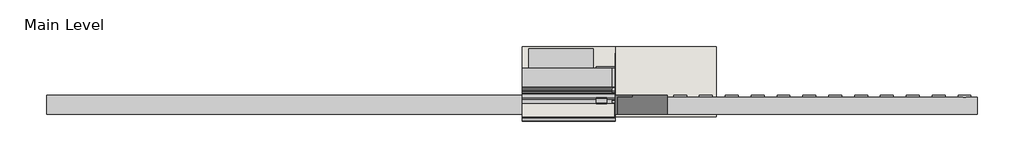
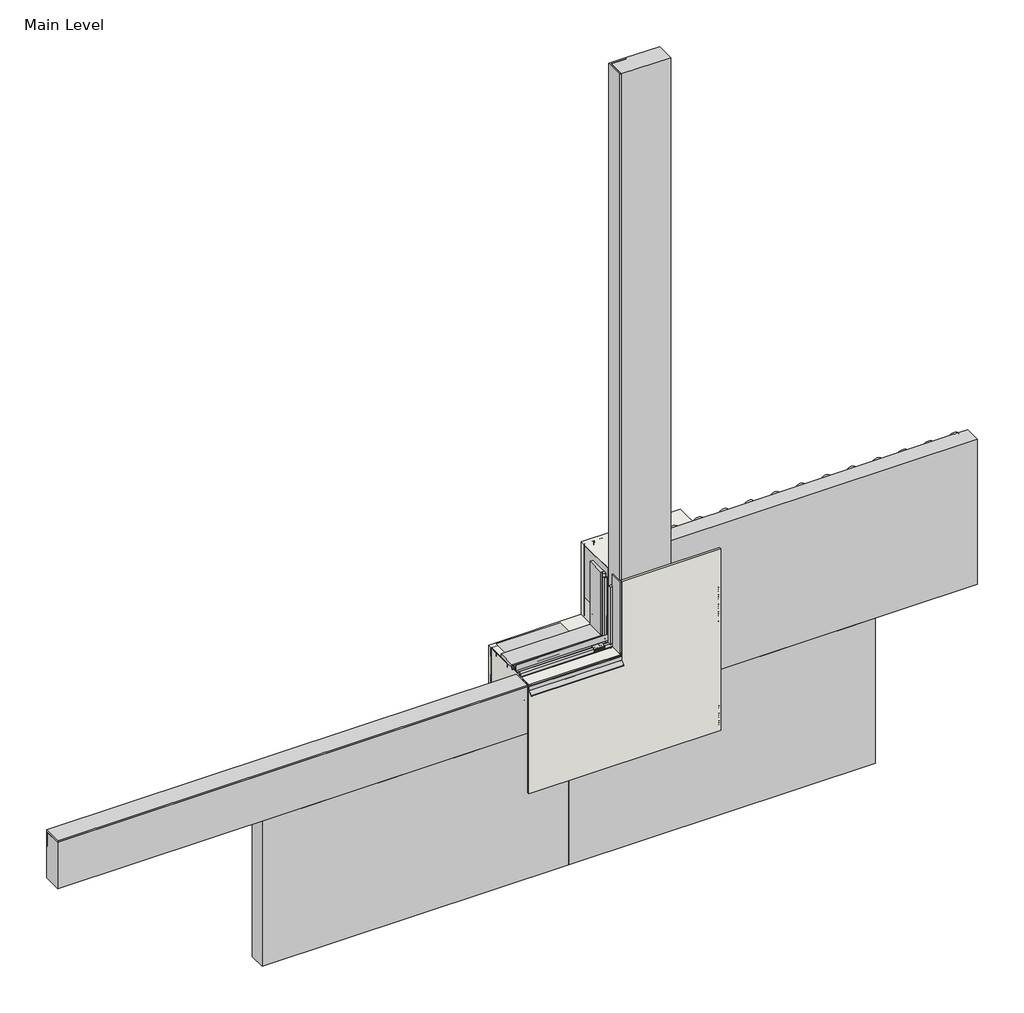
# One storey, incomplete: 28 proxies, 1 wall.
"""IFC4 building model written with IfcOpenShell, lengths in millimetres."""

from ifc_helpers import new_model, si_unit, frame, origin, place, context, project, spatial, polyline, outline, extrude, transform, mapped, element, save
from components import generic_models_31547c53, generic_models_d28646c3, generic_models_724a5e66, generic_models_aac0d774, generic_models_4f6b713c, generic_models_388356b2, generic_models_2850309d, generic_models_672f9cdd, generic_models_9b4c3a2c, generic_models_3fb7d6d8, proxy_4c3b85e5, proxy_c7e97176, proxy_46de1dcf, proxy_50213ae0, finish_coat_filler_finish_coat_filler_dfa12fb7, masonry_sill_masonry_sill_535ab80c, masonry_sill1_masonry_sill_349c8951, masonry_sill3_masonry_sill_9eb3d358, masonry_sill4_masonry_sill_f52e6068, proxy_a3fd9b0b, proxy_3a0ad636, proxy_0073da47, proxy_6f3203ff, window_header_window_header_abd4ef46, wood_blocking_5320d369

model = new_model("IFC4")

# Units and contexts
model_context = context("Model", 3, world=origin())
ifc_project = project(units=[si_unit("LENGTHUNIT", "METRE", prefix="MILLI")], contexts=[model_context])

# Site, building, storey
site = spatial("IfcSite", under=ifc_project)
building = spatial("IfcBuilding", under=site)
storey = spatial("IfcBuildingStorey", under=building, Name="Main Level", Elevation=0.0)

# Proxies
placement = place(None, origin())
generic_models_shape = generic_models_31547c53(model_context)
element("IfcBuildingElementProxy", 1, Name="Durabond Generic Model Sealant Vent : Durabond Generic Model Sealant Vent", ObjectType="Durabond Generic Model Sealant Vent : Durabond Generic Model Sealant Vent", at=placement, inside=storey, context=model_context, shape_type="MappedRepresentation", body=[
    mapped(generic_models_shape, transform((26800.7195523, 590.8476543, 464.646745), x_axis=(1.0, 0.0, 0.0), y_axis=(0.0, 0.08715574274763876, -0.9961946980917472), z_axis=(0.0, 0.9961946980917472, 0.08715574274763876))),
])
generic_models_2_shape = generic_models_d28646c3(model_context)
element("IfcBuildingElementProxy", 2, Name="CRAi Generic Model Line Based Drip Deflector : CRAi Generic Model Line Based Drip Deflector", ObjectType="CRAi Generic Model Line Based Drip Deflector : CRAi Generic Model Line Based Drip Deflector", at=placement, inside=storey, context=model_context, shape_type="MappedRepresentation", body=[
    mapped(generic_models_2_shape, transform((26855.8851773, 535.1829375, 451.8088934), x_axis=(0.0, 0.996194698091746, 0.08715574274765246), y_axis=(-1.0, 0.0, 0.0), z_axis=(0.0, -0.0871557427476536, 0.996194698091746))),
])
generic_models_3_shape = generic_models_724a5e66(model_context)
element("IfcBuildingElementProxy", 3, Name="Durabond Generic Model Insulation Adhesive Flat : Durabond Generic Model Insulation Adhesive Flat", ObjectType="Durabond Generic Model Insulation Adhesive Flat : Durabond Generic Model Insulation Adhesive Flat", at=placement, inside=storey, context=model_context, shape_type="MappedRepresentation", body=[
    mapped(generic_models_3_shape, transform((26703.4851773, 627.6316297, 381.0), x_axis=(1.0, 0.0, 0.0), y_axis=(0.0, -1.0, 0.0), z_axis=(0.0, 0.0, -1.0))),
])
element("IfcBuildingElementProxy", 4, Name="Durabond Generic Model Insulation Adhesive Flat : Durabond Generic Model Insulation Adhesive Flat", ObjectType="Durabond Generic Model Insulation Adhesive Flat : Durabond Generic Model Insulation Adhesive Flat", at=placement, inside=storey, context=model_context, shape_type="MappedRepresentation", body=[
    mapped(generic_models_3_shape, transform((26805.0851773, 627.6316297, 381.0), x_axis=(1.0, 0.0, 0.0), y_axis=(0.0, -1.0, 0.0), z_axis=(0.0, 0.0, -1.0))),
])
generic_models_4_shape = generic_models_aac0d774(model_context)
element("IfcBuildingElementProxy", 5, Name="Durabond Generic Model Insulation Adhesive Flat : Durabond Generic Model Insulation Adhesive Flat", ObjectType="Durabond Generic Model Insulation Adhesive Flat : Durabond Generic Model Insulation Adhesive Flat", at=placement, inside=storey, context=model_context, shape_type="MappedRepresentation", body=[
    mapped(generic_models_4_shape, transform((26906.6851773, 627.6316297, 685.8043344), x_axis=(1.0, 0.0, 0.0), y_axis=(0.0, -1.0, 0.0), z_axis=(0.0, 0.0, -1.0))),
])
element("IfcBuildingElementProxy", 6, Name="Durabond Generic Model Insulation Adhesive Flat : Durabond Generic Model Insulation Adhesive Flat", ObjectType="Durabond Generic Model Insulation Adhesive Flat : Durabond Generic Model Insulation Adhesive Flat", at=placement, inside=storey, context=model_context, shape_type="MappedRepresentation", body=[
    mapped(generic_models_4_shape, transform((27008.2851773, 627.6316297, 685.8), x_axis=(1.0, 0.0, 0.0), y_axis=(0.0, -1.0, 0.0), z_axis=(0.0, 0.0, -1.0))),
])
element("IfcBuildingElementProxy", 7, Name="Durabond Generic Model Insulation Adhesive Flat : Durabond Generic Model Insulation Adhesive Flat", ObjectType="Durabond Generic Model Insulation Adhesive Flat : Durabond Generic Model Insulation Adhesive Flat", at=placement, inside=storey, context=model_context, shape_type="MappedRepresentation", body=[
    mapped(generic_models_4_shape, transform((27109.8851773, 627.6316297, 685.8), x_axis=(1.0, 0.0, 0.0), y_axis=(0.0, -1.0, 0.0), z_axis=(0.0, 0.0, -1.0))),
])
element("IfcBuildingElementProxy", 8, Name="Durabond Generic Model Insulation Adhesive Flat : Durabond Generic Model Insulation Adhesive Flat", ObjectType="Durabond Generic Model Insulation Adhesive Flat : Durabond Generic Model Insulation Adhesive Flat", at=placement, inside=storey, context=model_context, shape_type="MappedRepresentation", body=[
    mapped(generic_models_4_shape, transform((27211.4851773, 627.6316297, 685.8), x_axis=(1.0, 0.0, 0.0), y_axis=(0.0, -1.0, 0.0), z_axis=(0.0, 0.0, -1.0))),
])
generic_models_5_shape = generic_models_4f6b713c(model_context)
generic_models_6_shape = generic_models_388356b2(model_context)
generic_models_7_shape = generic_models_2850309d(model_context)
element("IfcBuildingElementProxy", 9, Name="CRAi Generic Model Mesh Piece Face Based : CRAi Generic Model Mesh Piece Face Based", ObjectType="CRAi Generic Model Mesh Piece Face Based : CRAi Generic Model Mesh Piece Face Based", at=placement, inside=storey, context=model_context, shape_type="MappedRepresentation", body=[
    mapped(generic_models_5_shape, transform((27052.7351773, 541.9066297, 530.3011686), x_axis=(-1.0, 0.0, 0.0), y_axis=(0.0, 0.0, -1.0), z_axis=(0.0, -1.0, 0.0))),
    mapped(generic_models_6_shape, transform((27052.7351773, 541.9066297, 530.3011686), x_axis=(-1.0, 0.0, 0.0), y_axis=(0.0, 0.0, -1.0), z_axis=(0.0, -1.0, 0.0))),
    mapped(generic_models_7_shape, transform((27052.7351773, 541.9066297, 530.3011686), x_axis=(-1.0, 0.0, 0.0), y_axis=(0.0, 0.0, -1.0), z_axis=(0.0, -1.0, 0.0))),
])
generic_models_8_shape = generic_models_672f9cdd(model_context)
generic_models_9_shape = generic_models_9b4c3a2c(model_context)
generic_models_10_shape = generic_models_3fb7d6d8(model_context)
element("IfcBuildingElementProxy", 10, Name="CRAi Generic Model Mesh Piece Face Based : CRAi Generic Model Mesh Piece Face Based", ObjectType="CRAi Generic Model Mesh Piece Face Based : CRAi Generic Model Mesh Piece Face Based", at=placement, inside=storey, context=model_context, shape_type="MappedRepresentation", body=[
    mapped(generic_models_8_shape, transform((26990.8226773, 541.9066297, 50.8), x_axis=(-1.0, 0.0, 0.0), y_axis=(0.0, 0.0, -1.0), z_axis=(0.0, -1.0, 0.0))),
    mapped(generic_models_9_shape, transform((26990.8226773, 541.9066297, 50.8), x_axis=(-1.0, 0.0, 0.0), y_axis=(0.0, 0.0, -1.0), z_axis=(0.0, -1.0, 0.0))),
    mapped(generic_models_10_shape, transform((26990.8226773, 541.9066297, 50.8), x_axis=(-1.0, 0.0, 0.0), y_axis=(0.0, 0.0, -1.0), z_axis=(0.0, -1.0, 0.0))),
])
proxy_shape = proxy_4c3b85e5(model_context)
element("IfcBuildingElementProxy", 11, Name="Durabond Generic Model Quantum Select 5-0 Boundary Board : 3\"", ObjectType="Durabond Generic Model Quantum Select 5-0 Boundary Board : 3\"", at=placement, inside=storey, context=model_context, shape_type="MappedRepresentation", body=[
    mapped(proxy_shape, transform((25839.8851773, 624.4566297, 349.375778), x_axis=(-1.0, 0.0, 0.0), y_axis=(0.0, 0.0, -1.0), z_axis=(0.0, -1.0, 0.0))),
])
proxy_2_shape = proxy_c7e97176(model_context)
element("IfcBuildingElementProxy", 12, Name="Durabond Generic Model Quantum Select 5-0 Boundary Board : 3\"", ObjectType="Durabond Generic Model Quantum Select 5-0 Boundary Board : 3\"", at=placement, inside=storey, context=model_context, shape_type="MappedRepresentation", body=[
    mapped(proxy_2_shape, transform((26957.4851773, 624.4566297, 1670.175778), x_axis=(0.0, 0.0, 1.0), y_axis=(-1.0, 0.0, 0.0), z_axis=(0.0, -1.0, 0.0))),
])
proxy_3_shape = proxy_46de1dcf(model_context)
element("IfcBuildingElementProxy", 13, Name="Durabond Generic Model Quantum Select 5-0 Insulation Board : 3\"", ObjectType="Durabond Generic Model Quantum Select 5-0 Insulation Board : 3\"", at=placement, inside=storey, context=model_context, shape_type="MappedRepresentation", body=[
    mapped(proxy_3_shape, transform((27262.2851773, 624.4566297, -57.024222), x_axis=(1.0, 0.0, 0.0), y_axis=(0.0, 0.0, 1.0), z_axis=(0.0, -1.0, 0.0))),
])
element("IfcBuildingElementProxy", 14, Name="Durabond Generic Model Quantum Select 5-0 Insulation Board : 3\"", ObjectType="Durabond Generic Model Quantum Select 5-0 Insulation Board : 3\"", at=placement, inside=storey, context=model_context, shape_type="MappedRepresentation", body=[
    mapped(proxy_3_shape, transform((27668.6851773, 624.4566297, 552.575778), x_axis=(1.0, 0.0, 0.0), y_axis=(0.0, 0.0, 1.0), z_axis=(0.0, -1.0, 0.0))),
])
proxy_4_shape = proxy_50213ae0(model_context)
element("IfcBuildingElementProxy", 15, Name="Durabond Generic Model Quantum Select 5-0 Insulation Board : 3\"", ObjectType="Durabond Generic Model Quantum Select 5-0 Insulation Board : 3\"", at=placement, inside=storey, context=model_context, shape_type="MappedRepresentation", body=[
    mapped(proxy_4_shape, transform((26043.0851773, 624.4566297, -57.024222), x_axis=(-1.0, 0.0, 0.0), y_axis=(0.0, 0.0, -1.0), z_axis=(0.0, -1.0, 0.0))),
])
finish_coat_filler_finish_coat_filler_shape = finish_coat_filler_finish_coat_filler_dfa12fb7(model_context)
element("IfcBuildingElementProxy", 16, Name="Finish Coat Filler : Finish Coat Filler", ObjectType="Finish Coat Filler : Finish Coat Filler", at=placement, inside=storey, context=model_context, shape_type="MappedRepresentation", body=[
    mapped(finish_coat_filler_finish_coat_filler_shape, transform((0.0, 0.0, 0.0), x_axis=(1.0, 0.0, 0.0), y_axis=(0.0, 1.0, 0.0), z_axis=(0.0, 0.0, 1.0))),
])
masonry_sill_masonry_sill_shape = masonry_sill_masonry_sill_535ab80c(model_context)
element("IfcBuildingElementProxy", 17, Name="Masonry Sill : Masonry Sill", ObjectType="Masonry Sill : Masonry Sill", at=placement, inside=storey, context=model_context, shape_type="MappedRepresentation", body=[
    mapped(masonry_sill_masonry_sill_shape, transform((0.0, 0.0, 0.0), x_axis=(1.0, 0.0, 0.0), y_axis=(0.0, 1.0, 0.0), z_axis=(0.0, 0.0, 1.0))),
])
masonry_sill1_masonry_sill_shape = masonry_sill1_masonry_sill_349c8951(model_context)
element("IfcBuildingElementProxy", 18, Name="Masonry Sill1 : Masonry Sill", ObjectType="Masonry Sill1 : Masonry Sill", at=placement, inside=storey, context=model_context, shape_type="MappedRepresentation", body=[
    mapped(masonry_sill1_masonry_sill_shape, transform((0.0, 0.0, 0.0), x_axis=(1.0, 0.0, 0.0), y_axis=(0.0, 1.0, 0.0), z_axis=(0.0, 0.0, 1.0))),
])
masonry_sill3_masonry_sill_shape = masonry_sill3_masonry_sill_9eb3d358(model_context)
element("IfcBuildingElementProxy", 19, Name="Masonry Sill3 : Masonry Sill", ObjectType="Masonry Sill3 : Masonry Sill", at=placement, inside=storey, context=model_context, shape_type="MappedRepresentation", body=[
    mapped(masonry_sill3_masonry_sill_shape, transform((0.0, 0.0, 0.0), x_axis=(1.0, 0.0, 0.0), y_axis=(0.0, 1.0, 0.0), z_axis=(0.0, 0.0, 1.0))),
])
masonry_sill4_masonry_sill_shape = masonry_sill4_masonry_sill_f52e6068(model_context)
element("IfcBuildingElementProxy", 20, Name="Masonry Sill4 : Masonry Sill", ObjectType="Masonry Sill4 : Masonry Sill", at=placement, inside=storey, context=model_context, shape_type="MappedRepresentation", body=[
    mapped(masonry_sill4_masonry_sill_shape, transform((0.0, 0.0, -101.6), x_axis=(1.0, 0.0, 0.0), y_axis=(0.0, 1.0, 0.0), z_axis=(0.0, 0.0, 1.0))),
])
proxy_5_shape = proxy_a3fd9b0b(model_context)
element("IfcBuildingElementProxy", 21, Name="CRAi Generic Model Metal Stud : Metal Framing Stud - 1\" x 3.5\"", ObjectType="CRAi Generic Model Metal Stud : Metal Framing Stud - 1\" x 3.5\"", at=placement, inside=storey, context=model_context, shape_type="MappedRepresentation", body=[
    mapped(proxy_5_shape, transform((26876.5226773, 726.0566297, 0.0), x_axis=(1.0, 0.0, 0.0), y_axis=(0.0, 1.0, 0.0), z_axis=(0.0, 0.0, 1.0))),
])
proxy_6_shape = proxy_3a0ad636(model_context)
element("IfcBuildingElementProxy", 22, Name="CRAi Generic Model Metal Stud : Metal Framing Stud - 1\" x 3.5\"", ObjectType="CRAi Generic Model Metal Stud : Metal Framing Stud - 1\" x 3.5\"", at=placement, inside=storey, context=model_context, shape_type="MappedRepresentation", body=[
    mapped(proxy_6_shape, transform((26876.5226773, 726.0566297, 0.0), x_axis=(1.0, 0.0, 0.0), y_axis=(0.0, 1.0, 0.0), z_axis=(0.0, 0.0, 1.0))),
])
proxy_7_shape = proxy_0073da47(model_context)
element("IfcBuildingElementProxy", 23, Name="CRAi Generic Model Metal Stud : Metal Framing Stud - 1\" x 3.5\"", ObjectType="CRAi Generic Model Metal Stud : Metal Framing Stud - 1\" x 3.5\"", at=placement, inside=storey, context=model_context, shape_type="MappedRepresentation", body=[
    mapped(proxy_7_shape, transform((26914.6226773, 726.0566297, 0.0), x_axis=(-1.0, 0.0, 0.0), y_axis=(0.0, -1.0, 0.0), z_axis=(0.0, 0.0, 1.0))),
])
proxy_8_shape = proxy_6f3203ff(model_context)
element("IfcBuildingElementProxy", 24, Name="CRAi Generic Model Metal Stud : Metal Framing Stud - 1\" x 3.5\"", ObjectType="CRAi Generic Model Metal Stud : Metal Framing Stud - 1\" x 3.5\"", at=placement, inside=storey, context=model_context, shape_type="MappedRepresentation", body=[
    mapped(proxy_8_shape, transform((26508.2226773, 726.0566297, 0.0), x_axis=(-1.0, 0.0, 0.0), y_axis=(0.0, -1.0, 0.0), z_axis=(0.0, 0.0, 1.0))),
])
window_header_window_header_shape = window_header_window_header_abd4ef46(model_context)
element("IfcBuildingElementProxy", 25, Name="Window Header : Window Header", ObjectType="Window Header : Window Header", at=placement, inside=storey, context=model_context, shape_type="MappedRepresentation", body=[
    mapped(window_header_window_header_shape, transform((0.0, 0.0, 0.0), x_axis=(1.0, 0.0, 0.0), y_axis=(0.0, 1.0, 0.0), z_axis=(0.0, 0.0, 1.0))),
])
wood_blocking_shape = wood_blocking_5320d369(model_context)
element("IfcBuildingElementProxy", 26, Name="CRAi Generic Model Line Based Metal Framing Track : Wood Blocking", ObjectType="CRAi Generic Model Line Based Metal Framing Track : Wood Blocking", at=placement, inside=storey, context=model_context, shape_type="MappedRepresentation", body=[
    mapped(wood_blocking_shape, transform((26489.1726773, 649.8566297, 304.8), x_axis=(1.0, 0.0, 0.0), y_axis=(0.0, 1.0, 0.0), z_axis=(0.0, 0.0, 1.0))),
])
element("IfcBuildingElementProxy", 27, Name="CRAi Generic Model Line Based Metal Framing Track : Wood Blocking", ObjectType="CRAi Generic Model Line Based Metal Framing Track : Wood Blocking", at=placement, inside=storey, context=model_context, shape_type="MappedRepresentation", body=[
    mapped(wood_blocking_shape, transform((26489.1726773, 802.257101, 457.2), x_axis=(1.0, 0.0, 0.0), y_axis=(0.0, -1.0, 0.0), z_axis=(0.0, 0.0, -1.0))),
])
element("IfcBuildingElementProxy", 28, Name="CRAi Generic Model Line Based Metal Framing Track : Wood Blocking", ObjectType="CRAi Generic Model Line Based Metal Framing Track : Wood Blocking", at=placement, inside=storey, context=model_context, shape_type="MappedRepresentation", body=[
    mapped(wood_blocking_shape, transform((26489.1726773, 802.2566297, 304.8), x_axis=(1.0, 0.0, 0.0), y_axis=(0.0, -1.0, 0.0), z_axis=(0.0, 0.0, -1.0))),
])

# Wall
element("IfcWall", 29, ObjectType="189mm (7.5”) EIFS Field Applied on Mtl. Stud Layer - 50mm Grooved Insulation Board Metal Stud Wall", at=placement, inside=storey, context=model_context, shape_type="SweptSolid", body=[
    extrude(outline(polyline([(0.0, 26489.1726773), (0.0, 27251.1726773), (762.0, 27251.1726773), (762.0, 26857.4726773), (457.2, 26857.4726773), (457.2, 26489.1726773), (0.0, 26489.1726773)])), frame((0.0, 538.7316297, 0.0), z_axis=(0.0, 1.0, 0.0), x_axis=(0.0, 0.0, 1.0)), (0.0, 0.0, 1.0), 276.225),
])

save(model, "model.ifc")
